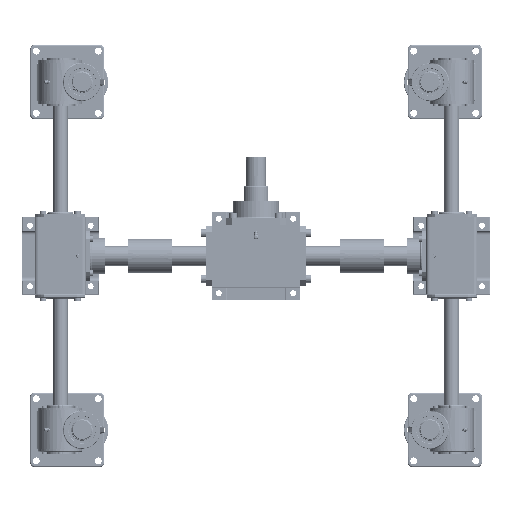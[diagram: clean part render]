
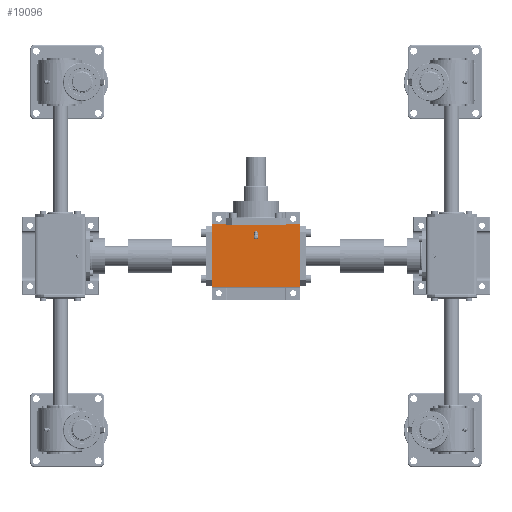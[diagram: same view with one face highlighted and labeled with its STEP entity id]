
A CAD part, top view. The second image highlights one B-rep face of the part: STEP entity #19096.
In plain terms, the highlighted planar face has unit normal (0, 0, 1).
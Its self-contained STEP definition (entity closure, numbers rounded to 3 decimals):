
#19096=ADVANCED_FACE('',(#45252,#45253),#45254,.T.);
#45252=FACE_OUTER_BOUND('',#89560,.T.);
#45253=FACE_BOUND('',#89561,.T.);
#45254=PLANE('',#89562);
#89560=EDGE_LOOP('',(#182221,#182222,#182223,#182224,#182225,#182226,#182227,#182228));
#89561=EDGE_LOOP('',(#182229));
#89562=AXIS2_PLACEMENT_3D('',#182230,#182231,#182232);
#182221=ORIENTED_EDGE('',*,*,#255208,.T.);
#182222=ORIENTED_EDGE('',*,*,#255165,.T.);
#182223=ORIENTED_EDGE('',*,*,#255209,.T.);
#182224=ORIENTED_EDGE('',*,*,#255180,.T.);
#182225=ORIENTED_EDGE('',*,*,#255210,.T.);
#182226=ORIENTED_EDGE('',*,*,#255211,.T.);
#182227=ORIENTED_EDGE('',*,*,#255212,.F.);
#182228=ORIENTED_EDGE('',*,*,#255213,.F.);
#182229=ORIENTED_EDGE('',*,*,#255214,.F.);
#182230=CARTESIAN_POINT('',(0.0,0.0,135.0));
#182231=DIRECTION('',(0.0,0.0,1.0));
#182232=DIRECTION('',(1.0,0.0,0.0));
#255165=EDGE_CURVE('',#313450,#313448,#313451,.T.);
#255180=EDGE_CURVE('',#313478,#313476,#313479,.T.);
#255208=EDGE_CURVE('',#313531,#313450,#313532,.T.);
#255209=EDGE_CURVE('',#313448,#313478,#313533,.T.);
#255210=EDGE_CURVE('',#313476,#313534,#313535,.T.);
#255211=EDGE_CURVE('',#313534,#313536,#313537,.T.);
#255212=EDGE_CURVE('',#313538,#313536,#313539,.T.);
#255213=EDGE_CURVE('',#313531,#313538,#313540,.T.);
#255214=EDGE_CURVE('',#313541,#313541,#313542,.T.);
#313448=VERTEX_POINT('',#414835);
#313450=VERTEX_POINT('',#414838);
#313451=LINE('',#414839,#414840);
#313476=VERTEX_POINT('',#414870);
#313478=VERTEX_POINT('',#414873);
#313479=LINE('',#414874,#414875);
#313531=VERTEX_POINT('',#414938);
#313532=LINE('',#414939,#414940);
#313533=LINE('',#414941,#414942);
#313534=VERTEX_POINT('',#414943);
#313535=LINE('',#414944,#414945);
#313536=VERTEX_POINT('',#414946);
#313537=LINE('',#414947,#414948);
#313538=VERTEX_POINT('',#414949);
#313539=LINE('',#414950,#414951);
#313540=LINE('',#414952,#414953);
#313541=VERTEX_POINT('',#414954);
#313542=CIRCLE('',#414955,3.0);
#414835=CARTESIAN_POINT('',(-63.5,88.5,135.0));
#414838=CARTESIAN_POINT('',(63.5,88.5,135.0));
#414839=CARTESIAN_POINT('',(0.,88.5,135.0));
#414840=VECTOR('',#487216,1.0);
#414870=CARTESIAN_POINT('',(63.5,-88.5,135.0));
#414873=CARTESIAN_POINT('',(-63.5,-88.5,135.0));
#414874=CARTESIAN_POINT('',(0.,-88.5,135.0));
#414875=VECTOR('',#487247,1.0);
#414938=CARTESIAN_POINT('',(63.5,61.0,135.0));
#414939=CARTESIAN_POINT('',(63.5,74.75,135.0));
#414940=VECTOR('',#487307,1.0);
#414941=CARTESIAN_POINT('',(-63.5,0.0,135.0));
#414942=VECTOR('',#487308,1.0);
#414943=CARTESIAN_POINT('',(63.5,-61.0,135.0));
#414944=CARTESIAN_POINT('',(63.5,-74.75,135.0));
#414945=VECTOR('',#487309,1.0);
#414946=CARTESIAN_POINT('',(63.0,-61.0,135.0));
#414947=CARTESIAN_POINT('',(63.25,-61.0,135.0));
#414948=VECTOR('',#487310,1.0);
#414949=CARTESIAN_POINT('',(63.0,61.0,135.0));
#414950=CARTESIAN_POINT('',(63.0,0.0,135.0));
#414951=VECTOR('',#487311,1.0);
#414952=CARTESIAN_POINT('',(63.25,61.0,135.0));
#414953=VECTOR('',#487312,1.0);
#414954=CARTESIAN_POINT('',(41.0,0.0,135.0));
#414955=AXIS2_PLACEMENT_3D('',#487313,#487314,#487315);
#487216=DIRECTION('',(-1.0,0.0,0.0));
#487247=DIRECTION('',(1.0,0.0,0.0));
#487307=DIRECTION('',(0.0,1.0,0.0));
#487308=DIRECTION('',(0.0,-1.0,0.0));
#487309=DIRECTION('',(0.0,1.0,0.0));
#487310=DIRECTION('',(-1.0,0.0,0.0));
#487311=DIRECTION('',(0.0,-1.0,0.0));
#487312=DIRECTION('',(-1.0,0.0,0.0));
#487313=CARTESIAN_POINT('',(38.0,0.0,135.0));
#487314=DIRECTION('',(0.0,0.0,1.0));
#487315=DIRECTION('',(1.0,0.0,0.0));
